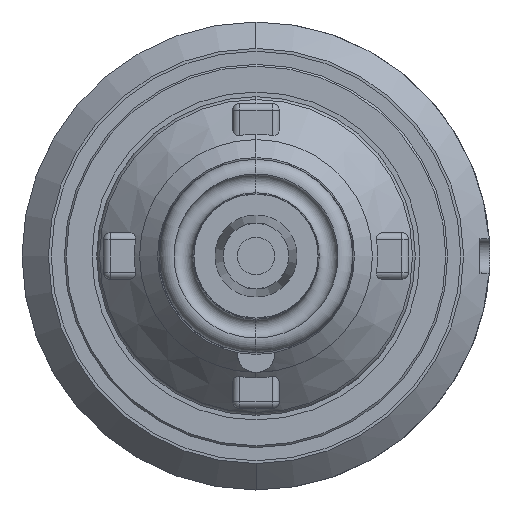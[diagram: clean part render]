
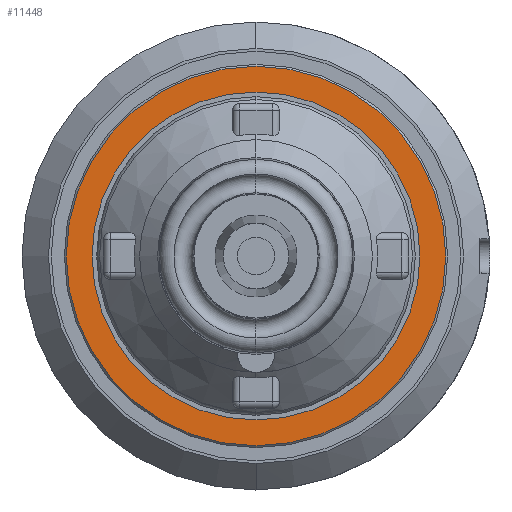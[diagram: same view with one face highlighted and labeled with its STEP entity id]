
A CAD part, front view. The second image highlights one B-rep face of the part: STEP entity #11448.
In plain terms, the highlighted planar face has unit normal (0, -1, 0).
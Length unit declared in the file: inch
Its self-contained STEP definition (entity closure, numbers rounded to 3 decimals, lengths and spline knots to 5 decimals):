
#211 = AXIS2_PLACEMENT_3D ( 'NONE', #8757, #3204, #9691 ) ;
#346 = VERTEX_POINT ( 'NONE', #11111 ) ;
#454 = CARTESIAN_POINT ( 'NONE',  ( 0., 8.45, 2.025 ) ) ;
#913 = CARTESIAN_POINT ( 'NONE',  ( 0., 8.45, 0. ) ) ;
#1312 = AXIS2_PLACEMENT_3D ( 'NONE', #1859, #8358, #2804 ) ;
#1626 = CIRCLE ( 'NONE', #211, 2.025 ) ;
#1634 = VERTEX_POINT ( 'NONE', #454 ) ;
#1834 = DIRECTION ( 'NONE',  ( 0., 0., -1. ) ) ;
#1859 = CARTESIAN_POINT ( 'NONE',  ( 0., 8.45, 0. ) ) ;
#1864 = AXIS2_PLACEMENT_3D ( 'NONE', #5485, #12003, #6468 ) ;
#2028 = CIRCLE ( 'NONE', #10794, 1.75 ) ;
#2141 = CARTESIAN_POINT ( 'NONE',  ( 0., 8.45, -1.75 ) ) ;
#2745 = VERTEX_POINT ( 'NONE', #2141 ) ;
#2804 = DIRECTION ( 'NONE',  ( 0., 0., -1. ) ) ;
#2916 = CIRCLE ( 'NONE', #11102, 2.025 ) ;
#3201 = ORIENTED_EDGE ( 'NONE', *, *, #6431, .T. ) ;
#3204 = DIRECTION ( 'NONE',  ( 0., -1., 0. ) ) ;
#3499 = DIRECTION ( 'NONE',  ( 0., -1., 0. ) ) ;
#3632 = CIRCLE ( 'NONE', #1312, 1.75 ) ;
#3821 = ORIENTED_EDGE ( 'NONE', *, *, #7551, .F. ) ;
#4633 = EDGE_CURVE ( 'NONE', #346, #1634, #1626, .T. ) ;
#5308 = FACE_OUTER_BOUND ( 'NONE', #10749, .T. ) ;
#5485 = CARTESIAN_POINT ( 'NONE',  ( 1.75, 8.45, 0. ) ) ;
#5690 = CARTESIAN_POINT ( 'NONE',  ( 0., 8.45, 1.75 ) ) ;
#6431 = EDGE_CURVE ( 'NONE', #1634, #346, #2916, .T. ) ;
#6468 = DIRECTION ( 'NONE',  ( 0., 0., -1. ) ) ;
#6720 = EDGE_CURVE ( 'NONE', #2745, #7726, #3632, .T. ) ;
#7399 = DIRECTION ( 'NONE',  ( 0., -1., 0. ) ) ;
#7551 = EDGE_CURVE ( 'NONE', #7726, #2745, #2028, .T. ) ;
#7726 = VERTEX_POINT ( 'NONE', #5690 ) ;
#8239 = ORIENTED_EDGE ( 'NONE', *, *, #4633, .T. ) ;
#8358 = DIRECTION ( 'NONE',  ( 0., -1., 0. ) ) ;
#8757 = CARTESIAN_POINT ( 'NONE',  ( 0., 8.45, 0. ) ) ;
#8985 = EDGE_LOOP ( 'NONE', ( #11609, #3821 ) ) ;
#9056 = CARTESIAN_POINT ( 'NONE',  ( 0., 8.45, 0. ) ) ;
#9691 = DIRECTION ( 'NONE',  ( 0., 0., -1. ) ) ;
#9993 = DIRECTION ( 'NONE',  ( 0., 0., -1. ) ) ;
#10749 = EDGE_LOOP ( 'NONE', ( #3201, #8239 ) ) ;
#10794 = AXIS2_PLACEMENT_3D ( 'NONE', #913, #7399, #1834 ) ;
#11096 = PLANE ( 'NONE',  #1864 ) ;
#11102 = AXIS2_PLACEMENT_3D ( 'NONE', #9056, #3499, #9993 ) ;
#11111 = CARTESIAN_POINT ( 'NONE',  ( 0., 8.45, -2.025 ) ) ;
#11448 = ADVANCED_FACE ( 'NONE', ( #5308, #11989 ), #11096, .T. ) ;
#11609 = ORIENTED_EDGE ( 'NONE', *, *, #6720, .F. ) ;
#11989 = FACE_BOUND ( 'NONE', #8985, .T. ) ;
#12003 = DIRECTION ( 'NONE',  ( 0., -1., 0. ) ) ;
